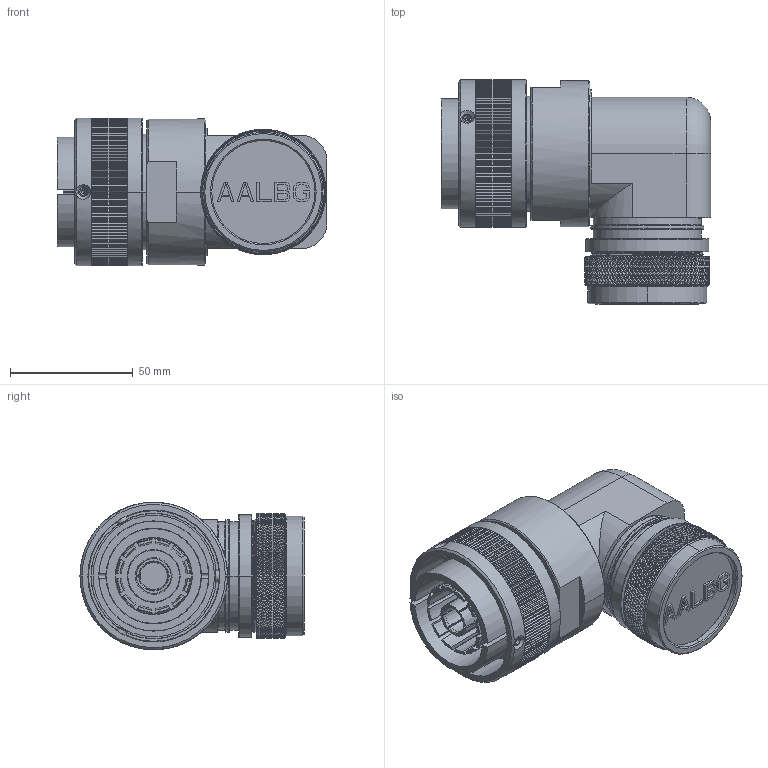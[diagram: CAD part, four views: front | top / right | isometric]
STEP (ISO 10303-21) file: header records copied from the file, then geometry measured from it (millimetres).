
FILE_DESCRIPTION((''),'2;1');
FILE_NAME('GCE3108E32M240S-B-T14_SW0001','2023-06-01T16:38:11',('paultorloting'),('NET AG system integration'),'CREO PARAMETRIC BY PTC INC, 2021404','CREO PARAMETRIC BY PTC INC, 2021404','');
FILE_SCHEMA(('AUTOMOTIVE_DESIGN { 1 0 10303 214 1 1 1 1 }'));
Length unit declared in the file: millimetre
Products named in the file (1): GCE3108E32M240S-B-T14_SW0001
Bounding box: 109.7 x 91.25 x 60.1 mm (x, y, z)
Volume: 276179.9 mm3; surface area: 54263.9 mm2
Topology: 1 solids, 4 shells, 7008 faces, 14619 edges, 7803 vertices
Faces by surface type: bspline 3124, plane 2319, cylinder 981, cone 505, torus 79
Entity records: 249926 total; most frequent: CARTESIAN_POINT 126978, ORIENTED_EDGE 29226, EDGE_CURVE 14613, DIRECTION 13717, B_SPLINE_CURVE_WITH_KNOTS 9705, VERTEX_POINT 7803, EDGE_LOOP 7202, FACE_OUTER_BOUND 7008
